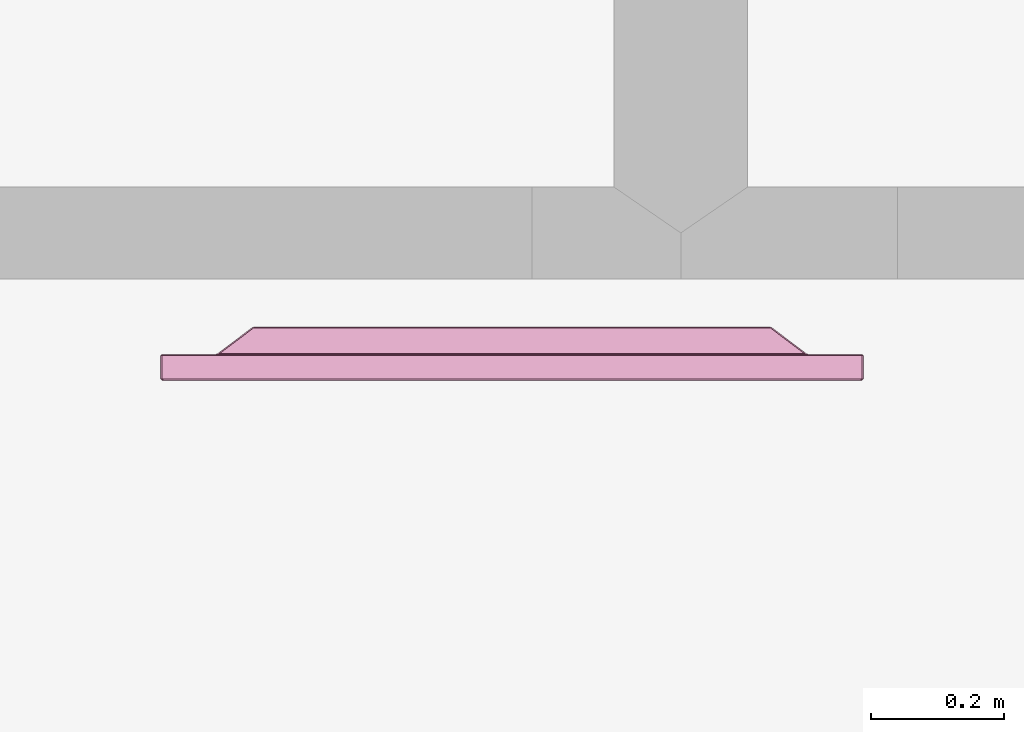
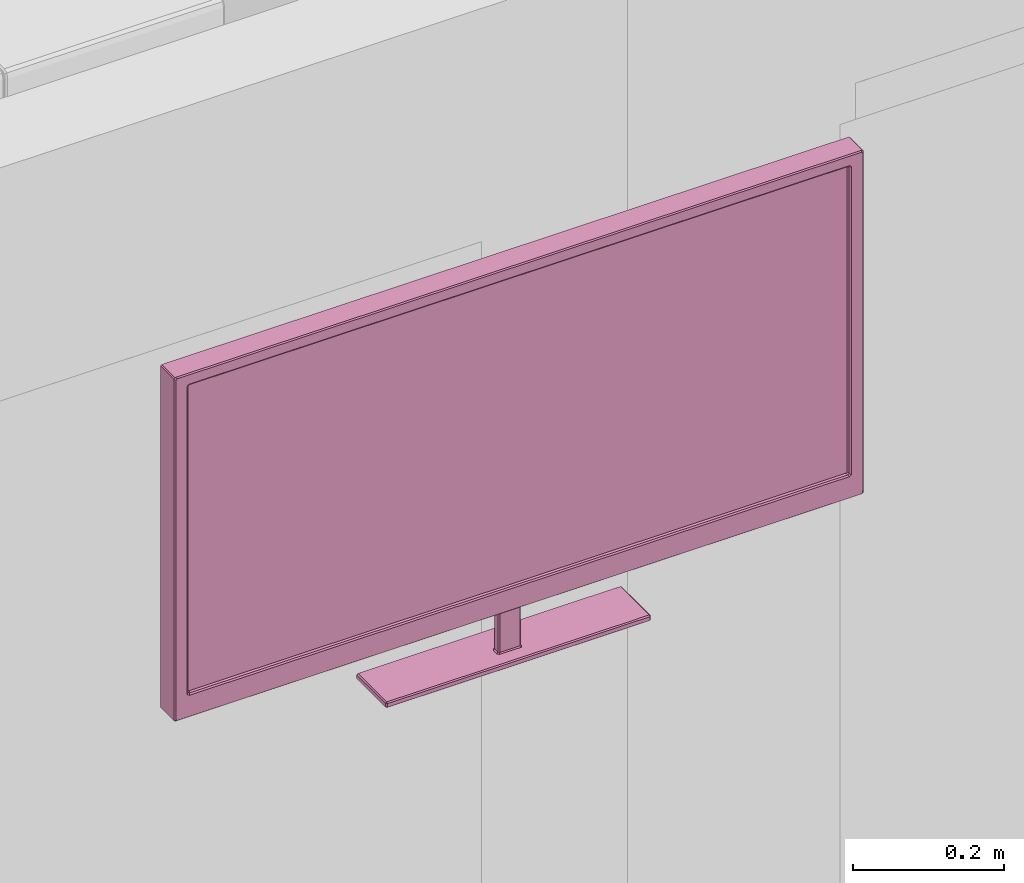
# One storey, part 5 of 9: 1 furnishing.
"""IFC2X3 building model written with IfcOpenShell, lengths in metres."""

from ifc_helpers import new_model, si_unit, frame, origin_with_axes, place, context, project, spatial, faceted_brep, type_object, element, save


model = new_model("IFC2X3")

# Units and contexts
model_context = context("Model", 3, precision=1e-05, world=origin_with_axes())
ifc_project = project(units=[si_unit("AREAUNIT", "SQUARE_METRE"), si_unit("LENGTHUNIT", "METRE")], contexts=[model_context])

# Site, building, storey, space
site_placement = place(None, origin_with_axes())
site = spatial("IfcSite", under=ifc_project, at=site_placement, Name="Site", CompositionType="ELEMENT")
building_placement = place(site_placement, origin_with_axes())
building = spatial("IfcBuilding", under=site, at=building_placement, Name="Building", CompositionType="ELEMENT")
storey_placement = place(building_placement, frame((0.0, 0.0, 0.0500004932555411), z_axis=(0.0, 0.0, 1.0), x_axis=(1.0, 0.0, 0.0)))
storey = spatial("IfcBuildingStorey", under=building, at=storey_placement, Name="Story 0", CompositionType="ELEMENT", Elevation=0.0499999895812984)
space_placement = place(storey_placement, frame((-2.12390536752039, -1.01893616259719, 0.0), z_axis=(0.0, 0.0, 1.0), x_axis=(1.0, 0.0, 0.0)))
space = spatial("IfcSpace", under=storey, at=space_placement, Name="005", CompositionType="ELEMENT", InteriorOrExteriorSpace="INTERNAL")

# Furnishing
furniture_type = type_object("IfcFurnitureType", Name="140231a4-7678-4132-90de-44a7f504c409")
furnishing_placement = place(space_placement, frame((-1.55999784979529, -0.110918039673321, 1.75392168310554), z_axis=(0.0, 0.0, 0.999999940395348), x_axis=(0.0, -0.999999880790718, 0.0)))
element("IfcFurnishingElement", 1, at=furnishing_placement, inside=space, type_object=furniture_type, Name="Television", ObjectType="Television", context=model_context, shape_type="Brep", body=[
    faceted_brep([(0.0288, -0.4993, -0.191), (0.0288, 0.4993, -0.191), (0.0288, -0.5014, -0.1892), (0.0288, -0.5014, 0.2994), (0.0288, -0.5014, -0.1892), (0.0288, -0.4993, 0.3012), (0.0288, 0.4993, 0.3012), (0.0288, -0.4993, 0.3012), (0.0288, 0.5014, 0.2994), (0.0288, -0.4993, 0.3012), (0.0288, -0.5014, -0.1892), (0.0288, 0.5014, 0.2994), (0.0288, -0.5014, -0.1892), (0.0288, 0.4993, -0.191), (0.0288, 0.5014, 0.2994), (0.0288, 0.4993, -0.191), (0.0288, 0.5014, -0.1892), (0.0288, 0.5014, 0.2994), (0.003, -0.5266, 0.3213), (0.003, -0.5266, -0.2303), (0.038, -0.5266, 0.3213), (0.038, -0.5266, -0.2303), (0.038, -0.5266, 0.3213), (0.003, -0.5266, -0.2303), (0.003, 0.5266, -0.2303), (0.003, 0.5266, 0.3213), (0.038, 0.5266, -0.2303), (0.038, 0.5266, 0.3213), (0.038, 0.5266, -0.2303), (0.003, 0.5266, 0.3213), (0.003, 0.5247, 0.323), (0.003, -0.5247, 0.323), (0.038, 0.5247, 0.323), (0.038, -0.5247, 0.323), (0.038, 0.5247, 0.323), (0.003, -0.5247, 0.323), (0.0143, -0.0181, -0.2121), (0.0062, -0.0181, -0.2121), (0.0143, -0.0181, -0.312), (0.0062, -0.0181, -0.312), (0.0143, -0.0181, -0.312), (0.0062, -0.0181, -0.2121), (0.0162, 0.0144, -0.2121), (0.0162, -0.0162, -0.2121), (0.0162, 0.0144, -0.312), (0.0162, -0.0162, -0.312), (0.0162, 0.0144, -0.312), (0.0162, -0.0162, -0.2121), (0.0062, 0.0164, -0.2121), (0.0143, 0.0164, -0.2121), (0.0062, 0.0164, -0.312), (0.0143, 0.0164, -0.312), (0.0062, 0.0164, -0.312), (0.0143, 0.0164, -0.2121), (-0.04, 0.386, -0.13), (-0.04, -0.386, -0.13), (-0.04, 0.386, 0.221), (-0.04, -0.386, 0.221), (-0.04, 0.386, 0.221), (-0.04, -0.386, -0.13), (0.0043, 0.0144, -0.312), (0.0043, -0.0162, -0.312), (0.0043, 0.0144, -0.2121), (0.0043, -0.0162, -0.2121), (0.0043, 0.0144, -0.2121), (0.0043, -0.0162, -0.312), (0.038, -0.5247, -0.232), (0.003, -0.5247, -0.232), (0.038, 0.5247, -0.232), (0.003, 0.5247, -0.232), (0.038, 0.5247, -0.232), (0.003, -0.5247, -0.232), (-0.0379, -0.2014, -0.323), (-0.0379, 0.1996, -0.323), (0.0382, -0.2014, -0.323), (0.0382, 0.1996, -0.323), (0.0382, -0.2014, -0.323), (-0.0379, 0.1996, -0.323), (0.0399, -0.5041, -0.1961), (0.0399, -0.5235, -0.2303), (0.0399, 0.5041, -0.1961), (0.0399, 0.5235, -0.2303), (0.0399, 0.5041, -0.1961), (0.0399, -0.5235, -0.2303), (0.0399, -0.5072, 0.3039), (0.0399, -0.5247, 0.3189), (0.0399, -0.5072, -0.194), (0.0399, -0.5247, -0.2247), (0.0399, -0.5072, -0.194), (0.0399, -0.5247, 0.3189), (0.0399, 0.5045, 0.3063), (0.0399, 0.5219, 0.3213), (0.0399, -0.5045, 0.3063), (0.0399, -0.5219, 0.3213), (0.0399, -0.5045, 0.3063), (0.0399, 0.5219, 0.3213), (0.0399, 0.5247, -0.2247), (0.0399, 0.5247, 0.3189), (0.0399, 0.5072, -0.194), (0.0399, 0.5072, 0.3039), (0.0399, 0.5072, -0.194), (0.0399, 0.5247, 0.3189), (0.0288, -0.4993, -0.191), (0.0381, -0.5026, -0.1938), (0.0288, 0.4993, -0.191), (0.0381, 0.5026, -0.1938), (0.0288, 0.4993, -0.191), (0.0381, -0.5026, -0.1938), (0.0288, -0.5014, 0.2994), (0.0381, -0.5047, 0.3023), (0.0288, -0.5014, -0.1892), (0.0381, -0.5047, -0.1921), (0.0288, -0.5014, -0.1892), (0.0381, -0.5047, 0.3023), (0.0288, 0.4993, 0.3012), (0.0381, 0.5026, 0.304), (0.0288, -0.4993, 0.3012), (0.0381, -0.5026, 0.304), (0.0288, -0.4993, 0.3012), (0.0381, 0.5026, 0.304), (0.0288, 0.5014, -0.1892), (0.0381, 0.5047, -0.1921), (0.0288, 0.5014, 0.2994), (0.0381, 0.5047, 0.3023), (0.0288, 0.5014, 0.2994), (0.0381, 0.5047, -0.1921), (0.0011, -0.4445, -0.1627), (0.0011, -0.5247, -0.2281), (0.0011, -0.4445, 0.2536), (0.0011, -0.5247, 0.3191), (0.0011, -0.4445, 0.2536), (0.0011, -0.5247, -0.2281), (0.0011, 0.4418, -0.1651), (0.0011, 0.5217, -0.2303), (0.0011, -0.4418, -0.1651), (0.0011, -0.5217, -0.2303), (0.0011, -0.4418, -0.1651), (0.0011, 0.5217, -0.2303), (0.0011, 0.4445, 0.2536), (0.0011, 0.5247, 0.3191), (0.0011, 0.4445, -0.1627), (0.0011, 0.5247, -0.2281), (0.0011, 0.4445, -0.1627), (0.0011, 0.5247, 0.3191), (0.0011, -0.4418, 0.2561), (0.0011, -0.5217, 0.3213), (0.0011, 0.4418, 0.2561), (0.0011, 0.5217, 0.3213), (0.0011, 0.4418, 0.2561), (0.0011, -0.5217, 0.3213), (-0.0389, -0.3895, 0.2217), (-0.0389, -0.3895, -0.1307), (0.0, -0.4411, 0.2516), (0.0, -0.4411, -0.1606), (0.0, -0.4411, 0.2516), (-0.0389, -0.3895, -0.1307), (-0.0386, -0.3871, -0.1328), (-0.0386, 0.3871, -0.1328), (-0.0003, -0.438, -0.1623), (-0.0003, 0.438, -0.1623), (-0.0003, -0.438, -0.1623), (-0.0386, 0.3871, -0.1328), (-0.0389, 0.3895, -0.1307), (-0.0389, 0.3895, 0.2217), (0.0, 0.4411, -0.1606), (0.0, 0.4411, 0.2516), (0.0, 0.4411, -0.1606), (-0.0389, 0.3895, 0.2217), (-0.0386, 0.3871, 0.2238), (-0.0386, -0.3871, 0.2238), (-0.0003, 0.438, 0.2533), (-0.0003, -0.438, 0.2533), (-0.0003, 0.438, 0.2533), (-0.0386, -0.3871, 0.2238), (0.04, 0.1996, -0.3213), (0.04, 0.1996, -0.3154), (0.04, -0.2014, -0.3213), (0.04, -0.2014, -0.3154), (0.04, -0.2014, -0.3213), (0.04, 0.1996, -0.3154), (-0.0379, 0.2016, -0.3213), (-0.0379, 0.2016, -0.3154), (0.0382, 0.2016, -0.3213), (0.0382, 0.2016, -0.3154), (0.0382, 0.2016, -0.3213), (-0.0379, 0.2016, -0.3154), (-0.0397, -0.2014, -0.3213), (-0.0397, -0.2014, -0.3154), (-0.0397, 0.1996, -0.3213), (-0.0397, 0.1996, -0.3154), (-0.0397, 0.1996, -0.3213), (-0.0397, -0.2014, -0.3154), (0.0382, -0.2034, -0.3213), (0.0382, -0.2034, -0.3154), (-0.0379, -0.2034, -0.3213), (-0.0379, -0.2034, -0.3154), (-0.0379, -0.2034, -0.3213), (0.0382, -0.2034, -0.3154), (-0.0374, -0.2014, -0.3137), (0.0379, -0.2014, -0.3137), (0.0058, -0.0201, -0.3137), (0.0146, -0.0201, -0.3137), (0.0058, -0.0201, -0.3137), (0.0379, -0.2014, -0.3137), (0.0025, 0.0161, -0.3137), (-0.0379, 0.1858, -0.3137), (0.0025, -0.0179, -0.3137), (-0.0379, -0.1876, -0.3137), (0.0025, -0.0179, -0.3137), (-0.0379, 0.1858, -0.3137), (0.0146, 0.0183, -0.3137), (0.0379, 0.1996, -0.3137), (0.0058, 0.0183, -0.3137), (-0.0374, 0.1996, -0.3137), (0.0058, 0.0183, -0.3137), (0.0379, 0.1996, -0.3137), (0.018, -0.018, -0.3137), (0.0382, -0.1746, -0.3137), (0.018, 0.0162, -0.3137), (0.0382, 0.1728, -0.3137), (0.018, 0.0162, -0.3137), (0.0382, -0.1746, -0.3137), (0.0346, -0.5151, -0.2007), (0.0346, 0.5151, -0.2007), (0.0346, -0.5151, 0.3109), (0.0346, 0.5151, 0.3109), (0.0346, -0.5151, 0.3109), (0.0346, 0.5151, -0.2007), (0.0399, -0.5219, 0.3213), (0.038, -0.5247, 0.323), (0.0399, -0.5247, 0.3189), (0.038, -0.5266, 0.3213), (0.0399, -0.5247, 0.3189), (0.038, -0.5247, 0.323), (0.0011, 0.5217, 0.3213), (0.003, 0.5247, 0.323), (0.0011, 0.5247, 0.3191), (0.003, 0.5266, 0.3213), (0.0011, 0.5247, 0.3191), (0.003, 0.5247, 0.323), (0.0399, 0.5247, 0.3189), (0.038, 0.5266, 0.3213), (0.0399, 0.5219, 0.3213), (0.038, 0.5247, 0.323), (0.0399, 0.5219, 0.3213), (0.038, 0.5266, 0.3213), (0.0058, -0.0201, -0.3137), (0.0062, -0.0181, -0.312), (0.0025, -0.0179, -0.3137), (0.0043, -0.0162, -0.312), (0.0025, -0.0179, -0.3137), (0.0062, -0.0181, -0.312), (0.0146, -0.0201, -0.3137), (0.018, -0.018, -0.3137), (0.0143, -0.0181, -0.312), (0.0162, -0.0162, -0.312), (0.0143, -0.0181, -0.312), (0.018, -0.018, -0.3137), (0.0146, 0.0183, -0.3137), (0.0143, 0.0164, -0.312), (0.018, 0.0162, -0.3137), (0.0162, 0.0144, -0.312), (0.018, 0.0162, -0.3137), (0.0143, 0.0164, -0.312), (-0.0386, -0.3871, 0.2238), (-0.04, -0.386, 0.221), (-0.0389, -0.3895, 0.2217), (0.0058, 0.0183, -0.3137), (0.0025, 0.0161, -0.3137), (0.0062, 0.0164, -0.312), (0.0043, 0.0144, -0.312), (0.0062, 0.0164, -0.312), (0.0025, 0.0161, -0.3137), (0.0011, -0.5217, -0.2303), (0.003, -0.5247, -0.232), (0.0011, -0.5247, -0.2281), (0.003, -0.5266, -0.2303), (0.0011, -0.5247, -0.2281), (0.003, -0.5247, -0.232), (0.0399, -0.5247, -0.2247), (0.038, -0.5266, -0.2303), (0.0399, -0.5235, -0.2303), (0.038, -0.5247, -0.232), (0.0399, -0.5235, -0.2303), (0.038, -0.5266, -0.2303), (0.0382, -0.2034, -0.3213), (0.0382, -0.2014, -0.323), (0.04, -0.2014, -0.3213), (0.0399, 0.5247, -0.2247), (0.0399, 0.5235, -0.2303), (0.038, 0.5266, -0.2303), (0.038, 0.5247, -0.232), (0.038, 0.5266, -0.2303), (0.0399, 0.5235, -0.2303), (0.0381, -0.5047, -0.1921), (0.0399, -0.5072, -0.194), (0.0381, -0.5026, -0.1938), (0.0399, -0.5041, -0.1961), (0.0381, -0.5026, -0.1938), (0.0399, -0.5072, -0.194), (0.0381, -0.5026, 0.304), (0.0399, -0.5045, 0.3063), (0.0381, -0.5047, 0.3023), (0.0399, -0.5072, 0.3039), (0.0381, -0.5047, 0.3023), (0.0399, -0.5045, 0.3063), (0.0381, 0.5047, 0.3023), (0.0399, 0.5072, 0.3039), (0.0381, 0.5026, 0.304), (0.0399, 0.5045, 0.3063), (0.0381, 0.5026, 0.304), (0.0399, 0.5072, 0.3039), (0.0381, 0.5047, -0.1921), (0.0381, 0.5026, -0.1938), (0.0399, 0.5072, -0.194), (0.0399, 0.5041, -0.1961), (0.0399, 0.5072, -0.194), (0.0381, 0.5026, -0.1938), (0.0011, -0.5217, 0.3213), (0.0011, -0.5247, 0.3191), (0.003, -0.5247, 0.323), (0.003, -0.5266, 0.3213), (0.003, -0.5247, 0.323), (0.0011, -0.5247, 0.3191), (-0.0003, -0.438, 0.2533), (0.0, -0.4411, 0.2516), (0.0011, -0.4418, 0.2561), (0.0011, -0.4445, 0.2536), (0.0011, -0.4418, 0.2561), (0.0, -0.4411, 0.2516), (-0.0003, -0.438, -0.1623), (0.0011, -0.4418, -0.1651), (0.0, -0.4411, -0.1606), (0.0011, -0.4445, -0.1627), (0.0, -0.4411, -0.1606), (0.0011, -0.4418, -0.1651), (0.0011, 0.5217, -0.2303), (0.0011, 0.5247, -0.2281), (0.003, 0.5247, -0.232), (0.003, 0.5266, -0.2303), (0.003, 0.5247, -0.232), (0.0011, 0.5247, -0.2281), (-0.0003, 0.438, -0.1623), (0.0, 0.4411, -0.1606), (0.0011, 0.4418, -0.1651), (0.0011, 0.4445, -0.1627), (0.0011, 0.4418, -0.1651), (0.0, 0.4411, -0.1606), (-0.0003, 0.438, 0.2533), (0.0011, 0.4418, 0.2561), (0.0, 0.4411, 0.2516), (0.0011, 0.4445, 0.2536), (0.0, 0.4411, 0.2516), (0.0011, 0.4418, 0.2561), (-0.0386, -0.3871, -0.1328), (-0.0389, -0.3895, -0.1307), (-0.04, -0.386, -0.13), (-0.0389, 0.3895, -0.1307), (-0.0386, 0.3871, -0.1328), (-0.04, 0.386, -0.13), (-0.0386, 0.3871, 0.2238), (-0.0389, 0.3895, 0.2217), (-0.04, 0.386, 0.221), (0.0382, 0.2016, -0.3213), (0.04, 0.1996, -0.3213), (0.0382, 0.1996, -0.323), (-0.0397, 0.1996, -0.3213), (-0.0379, 0.2016, -0.3213), (-0.0379, 0.1996, -0.323), (-0.0379, -0.2034, -0.3213), (-0.0397, -0.2014, -0.3213), (-0.0379, -0.2014, -0.323), (-0.0379, -0.1876, -0.3137), (-0.0397, -0.2014, -0.3154), (-0.0374, -0.2014, -0.3137), (-0.0379, -0.2034, -0.3154), (-0.0374, -0.2014, -0.3137), (-0.0397, -0.2014, -0.3154), (0.0382, -0.1746, -0.3137), (0.0379, -0.2014, -0.3137), (0.04, -0.2014, -0.3154), (0.0382, -0.2034, -0.3154), (0.04, -0.2014, -0.3154), (0.0379, -0.2014, -0.3137), (-0.0379, 0.1858, -0.3137), (-0.0374, 0.1996, -0.3137), (-0.0397, 0.1996, -0.3154), (-0.0379, 0.2016, -0.3154), (-0.0397, 0.1996, -0.3154), (-0.0374, 0.1996, -0.3137), (0.0382, 0.2016, -0.3154), (0.0379, 0.1996, -0.3137), (0.04, 0.1996, -0.3154), (0.0382, 0.1728, -0.3137), (0.04, 0.1996, -0.3154), (0.0379, 0.1996, -0.3137), (0.038, -0.5266, -0.2303), (0.003, -0.5266, -0.2303), (0.038, -0.5247, -0.232), (0.003, -0.5247, -0.232), (0.038, -0.5247, -0.232), (0.003, -0.5266, -0.2303), (0.003, -0.5266, 0.3213), (0.038, -0.5266, 0.3213), (0.003, -0.5247, 0.323), (0.038, -0.5247, 0.323), (0.003, -0.5247, 0.323), (0.038, -0.5266, 0.3213), (0.038, 0.5266, 0.3213), (0.003, 0.5266, 0.3213), (0.038, 0.5247, 0.323), (0.003, 0.5247, 0.323), (0.038, 0.5247, 0.323), (0.003, 0.5266, 0.3213), (0.003, 0.5266, -0.2303), (0.038, 0.5266, -0.2303), (0.003, 0.5247, -0.232), (0.038, 0.5247, -0.232), (0.003, 0.5247, -0.232), (0.038, 0.5266, -0.2303), (0.0062, -0.0181, -0.312), (0.0062, -0.0181, -0.2121), (0.0043, -0.0162, -0.312), (0.0043, -0.0162, -0.2121), (0.0043, -0.0162, -0.312), (0.0062, -0.0181, -0.2121), (0.0143, -0.0181, -0.2121), (0.0143, -0.0181, -0.312), (0.0162, -0.0162, -0.2121), (0.0162, -0.0162, -0.312), (0.0162, -0.0162, -0.2121), (0.0143, -0.0181, -0.312), (0.0162, 0.0144, -0.2121), (0.0162, 0.0144, -0.312), (0.0143, 0.0164, -0.2121), (0.0143, 0.0164, -0.312), (0.0143, 0.0164, -0.2121), (0.0162, 0.0144, -0.312), (0.0062, 0.0164, -0.2121), (0.0062, 0.0164, -0.312), (0.0043, 0.0144, -0.2121), (0.0043, 0.0144, -0.312), (0.0043, 0.0144, -0.2121), (0.0062, 0.0164, -0.312), (-0.04, -0.386, 0.221), (-0.04, -0.386, -0.13), (-0.0389, -0.3895, 0.2217), (-0.0389, -0.3895, -0.1307), (-0.0389, -0.3895, 0.2217), (-0.04, -0.386, -0.13), (-0.04, -0.386, -0.13), (-0.04, 0.386, -0.13), (-0.0386, -0.3871, -0.1328), (-0.0386, 0.3871, -0.1328), (-0.0386, -0.3871, -0.1328), (-0.04, 0.386, -0.13), (-0.04, 0.386, -0.13), (-0.04, 0.386, 0.221), (-0.0389, 0.3895, -0.1307), (-0.0389, 0.3895, 0.2217), (-0.0389, 0.3895, -0.1307), (-0.04, 0.386, 0.221), (-0.04, 0.386, 0.221), (-0.04, -0.386, 0.221), (-0.0386, 0.3871, 0.2238), (-0.0386, -0.3871, 0.2238), (-0.0386, 0.3871, 0.2238), (-0.04, -0.386, 0.221), (0.0382, 0.1996, -0.323), (-0.0379, 0.1996, -0.323), (0.0382, 0.2016, -0.3213), (-0.0379, 0.2016, -0.3213), (0.0382, 0.2016, -0.3213), (-0.0379, 0.1996, -0.323), (-0.0379, 0.1996, -0.323), (-0.0379, -0.2014, -0.323), (-0.0397, 0.1996, -0.3213), (-0.0397, -0.2014, -0.3213), (-0.0397, 0.1996, -0.3213), (-0.0379, -0.2014, -0.323), (-0.0379, -0.2014, -0.323), (0.0382, -0.2014, -0.323), (-0.0379, -0.2034, -0.3213), (0.0382, -0.2034, -0.3213), (-0.0379, -0.2034, -0.3213), (0.0382, -0.2014, -0.323), (0.0382, -0.2014, -0.323), (0.0382, 0.1996, -0.323), (0.04, -0.2014, -0.3213), (0.04, 0.1996, -0.3213), (0.04, -0.2014, -0.3213), (0.0382, 0.1996, -0.323), (0.0399, 0.5235, -0.2303), (0.0399, -0.5235, -0.2303), (0.038, 0.5247, -0.232), (0.038, -0.5247, -0.232), (0.038, 0.5247, -0.232), (0.0399, -0.5235, -0.2303), (0.0399, -0.5235, -0.2303), (0.0399, -0.5041, -0.1961), (0.0399, -0.5247, -0.2247), (0.0399, -0.5072, -0.194), (0.0399, -0.5247, -0.2247), (0.0399, -0.5041, -0.1961), (0.0399, -0.5247, -0.2247), (0.0399, -0.5247, 0.3189), (0.038, -0.5266, -0.2303), (0.038, -0.5266, 0.3213), (0.038, -0.5266, -0.2303), (0.0399, -0.5247, 0.3189), (0.0399, -0.5247, 0.3189), (0.0399, -0.5072, 0.3039), (0.0399, -0.5219, 0.3213), (0.0399, -0.5045, 0.3063), (0.0399, -0.5219, 0.3213), (0.0399, -0.5072, 0.3039), (0.0399, -0.5219, 0.3213), (0.0399, 0.5219, 0.3213), (0.038, -0.5247, 0.323), (0.038, 0.5247, 0.323), (0.038, -0.5247, 0.323), (0.0399, 0.5219, 0.3213), (0.0399, 0.5219, 0.3213), (0.0399, 0.5045, 0.3063), (0.0399, 0.5247, 0.3189), (0.0399, 0.5072, 0.3039), (0.0399, 0.5247, 0.3189), (0.0399, 0.5045, 0.3063), (0.0399, 0.5247, 0.3189), (0.0399, 0.5247, -0.2247), (0.038, 0.5266, 0.3213), (0.038, 0.5266, -0.2303), (0.038, 0.5266, 0.3213), (0.0399, 0.5247, -0.2247), (0.0399, 0.5247, -0.2247), (0.0399, 0.5072, -0.194), (0.0399, 0.5235, -0.2303), (0.0399, 0.5041, -0.1961), (0.0399, 0.5235, -0.2303), (0.0399, 0.5072, -0.194), (0.0381, 0.5026, -0.1938), (0.0381, -0.5026, -0.1938), (0.0399, 0.5041, -0.1961), (0.0399, -0.5041, -0.1961), (0.0399, 0.5041, -0.1961), (0.0381, -0.5026, -0.1938), (0.0381, -0.5026, -0.1938), (0.0288, -0.4993, -0.191), (0.0381, -0.5047, -0.1921), (0.0288, -0.5014, -0.1892), (0.0381, -0.5047, -0.1921), (0.0288, -0.4993, -0.191), (0.0381, -0.5047, -0.1921), (0.0381, -0.5047, 0.3023), (0.0399, -0.5072, -0.194), (0.0399, -0.5072, 0.3039), (0.0399, -0.5072, -0.194), (0.0381, -0.5047, 0.3023), (0.0381, -0.5047, 0.3023), (0.0288, -0.5014, 0.2994), (0.0381, -0.5026, 0.304), (0.0288, -0.4993, 0.3012), (0.0381, -0.5026, 0.304), (0.0288, -0.5014, 0.2994), (0.0381, -0.5026, 0.304), (0.0381, 0.5026, 0.304), (0.0399, -0.5045, 0.3063), (0.0399, 0.5045, 0.3063), (0.0399, -0.5045, 0.3063), (0.0381, 0.5026, 0.304), (0.0381, 0.5026, 0.304), (0.0288, 0.4993, 0.3012), (0.0381, 0.5047, 0.3023), (0.0288, 0.5014, 0.2994), (0.0381, 0.5047, 0.3023), (0.0288, 0.4993, 0.3012), (0.0381, 0.5047, 0.3023), (0.0381, 0.5047, -0.1921), (0.0399, 0.5072, 0.3039), (0.0399, 0.5072, -0.194), (0.0399, 0.5072, 0.3039), (0.0381, 0.5047, -0.1921), (0.0381, 0.5047, -0.1921), (0.0288, 0.5014, -0.1892), (0.0381, 0.5026, -0.1938), (0.0288, 0.4993, -0.191), (0.0381, 0.5026, -0.1938), (0.0288, 0.5014, -0.1892), (0.0011, -0.5247, 0.3191), (0.0011, -0.5247, -0.2281), (0.003, -0.5266, 0.3213), (0.003, -0.5266, -0.2303), (0.003, -0.5266, 0.3213), (0.0011, -0.5247, -0.2281), (0.0011, -0.5247, -0.2281), (0.0011, -0.4445, -0.1627), (0.0011, -0.5217, -0.2303), (0.0011, -0.4418, -0.1651), (0.0011, -0.5217, -0.2303), (0.0011, -0.4445, -0.1627), (0.0011, -0.4445, -0.1627), (0.0011, -0.4445, 0.2536), (0.0, -0.4411, -0.1606), (0.0, -0.4411, 0.2516), (0.0, -0.4411, -0.1606), (0.0011, -0.4445, 0.2536), (0.0011, -0.5217, -0.2303), (0.0011, 0.5217, -0.2303), (0.003, -0.5247, -0.232), (0.003, 0.5247, -0.232), (0.003, -0.5247, -0.232), (0.0011, 0.5217, -0.2303), (0.0011, 0.5217, -0.2303), (0.0011, 0.4418, -0.1651), (0.0011, 0.5247, -0.2281), (0.0011, 0.4445, -0.1627), (0.0011, 0.5247, -0.2281), (0.0011, 0.4418, -0.1651), (0.0011, 0.4418, -0.1651), (0.0011, -0.4418, -0.1651), (-0.0003, 0.438, -0.1623), (-0.0003, -0.438, -0.1623), (-0.0003, 0.438, -0.1623), (0.0011, -0.4418, -0.1651), (0.0011, 0.5247, -0.2281), (0.0011, 0.5247, 0.3191), (0.003, 0.5266, -0.2303), (0.003, 0.5266, 0.3213), (0.003, 0.5266, -0.2303), (0.0011, 0.5247, 0.3191), (0.0011, 0.5247, 0.3191), (0.0011, 0.4445, 0.2536), (0.0011, 0.5217, 0.3213), (0.0011, 0.4418, 0.2561), (0.0011, 0.5217, 0.3213), (0.0011, 0.4445, 0.2536), (0.0011, 0.4445, 0.2536), (0.0011, 0.4445, -0.1627), (0.0, 0.4411, 0.2516), (0.0, 0.4411, -0.1606), (0.0, 0.4411, 0.2516), (0.0011, 0.4445, -0.1627), (0.0011, 0.5217, 0.3213), (0.0011, -0.5217, 0.3213), (0.003, 0.5247, 0.323), (0.003, -0.5247, 0.323), (0.003, 0.5247, 0.323), (0.0011, -0.5217, 0.3213), (0.0011, -0.5217, 0.3213), (0.0011, -0.4418, 0.2561), (0.0011, -0.5247, 0.3191), (0.0011, -0.4445, 0.2536), (0.0011, -0.5247, 0.3191), (0.0011, -0.4418, 0.2561), (0.0011, -0.4418, 0.2561), (0.0011, 0.4418, 0.2561), (-0.0003, -0.438, 0.2533), (-0.0003, 0.438, 0.2533), (-0.0003, -0.438, 0.2533), (0.0011, 0.4418, 0.2561), (0.0, -0.4411, -0.1606), (-0.0389, -0.3895, -0.1307), (-0.0003, -0.438, -0.1623), (-0.0386, -0.3871, -0.1328), (-0.0003, -0.438, -0.1623), (-0.0389, -0.3895, -0.1307), (-0.0003, 0.438, -0.1623), (-0.0386, 0.3871, -0.1328), (0.0, 0.4411, -0.1606), (-0.0389, 0.3895, -0.1307), (0.0, 0.4411, -0.1606), (-0.0386, 0.3871, -0.1328), (0.0, 0.4411, 0.2516), (-0.0389, 0.3895, 0.2217), (-0.0003, 0.438, 0.2533), (-0.0386, 0.3871, 0.2238), (-0.0003, 0.438, 0.2533), (-0.0389, 0.3895, 0.2217), (-0.0003, -0.438, 0.2533), (-0.0386, -0.3871, 0.2238), (0.0, -0.4411, 0.2516), (-0.0389, -0.3895, 0.2217), (0.0, -0.4411, 0.2516), (-0.0386, -0.3871, 0.2238), (0.04, 0.1996, -0.3154), (0.04, 0.1996, -0.3213), (0.0382, 0.2016, -0.3154), (0.0382, 0.2016, -0.3213), (0.0382, 0.2016, -0.3154), (0.04, 0.1996, -0.3213), (-0.0379, 0.2016, -0.3154), (-0.0379, 0.2016, -0.3213), (-0.0397, 0.1996, -0.3154), (-0.0397, 0.1996, -0.3213), (-0.0397, 0.1996, -0.3154), (-0.0379, 0.2016, -0.3213), (-0.0397, -0.2014, -0.3154), (-0.0397, -0.2014, -0.3213), (-0.0379, -0.2034, -0.3154), (-0.0379, -0.2034, -0.3213), (-0.0379, -0.2034, -0.3154), (-0.0397, -0.2014, -0.3213), (0.0382, -0.2034, -0.3154), (0.0382, -0.2034, -0.3213), (0.04, -0.2014, -0.3154), (0.04, -0.2014, -0.3213), (0.04, -0.2014, -0.3154), (0.0382, -0.2034, -0.3213), (0.0379, -0.2014, -0.3137), (-0.0374, -0.2014, -0.3137), (0.0382, -0.2034, -0.3154), (-0.0379, -0.2034, -0.3154), (0.0382, -0.2034, -0.3154), (-0.0374, -0.2014, -0.3137), (-0.0374, -0.2014, -0.3137), (0.0058, -0.0201, -0.3137), (-0.0379, -0.1876, -0.3137), (0.0025, -0.0179, -0.3137), (-0.0379, -0.1876, -0.3137), (0.0058, -0.0201, -0.3137), (0.0058, -0.0201, -0.3137), (0.0146, -0.0201, -0.3137), (0.0062, -0.0181, -0.312), (0.0143, -0.0181, -0.312), (0.0062, -0.0181, -0.312), (0.0146, -0.0201, -0.3137), (-0.0379, -0.1876, -0.3137), (-0.0379, 0.1858, -0.3137), (-0.0397, -0.2014, -0.3154), (-0.0397, 0.1996, -0.3154), (-0.0397, -0.2014, -0.3154), (-0.0379, 0.1858, -0.3137), (-0.0379, 0.1858, -0.3137), (0.0025, 0.0161, -0.3137), (-0.0374, 0.1996, -0.3137), (0.0058, 0.0183, -0.3137), (-0.0374, 0.1996, -0.3137), (0.0025, 0.0161, -0.3137), (0.0025, 0.0161, -0.3137), (0.0025, -0.0179, -0.3137), (0.0043, 0.0144, -0.312), (0.0043, -0.0162, -0.312), (0.0043, 0.0144, -0.312), (0.0025, -0.0179, -0.3137), (-0.0374, 0.1996, -0.3137), (0.0379, 0.1996, -0.3137), (-0.0379, 0.2016, -0.3154), (0.0382, 0.2016, -0.3154), (-0.0379, 0.2016, -0.3154), (0.0379, 0.1996, -0.3137), (0.0379, 0.1996, -0.3137), (0.0146, 0.0183, -0.3137), (0.0382, 0.1728, -0.3137), (0.018, 0.0162, -0.3137), (0.0382, 0.1728, -0.3137), (0.0146, 0.0183, -0.3137), (0.0146, 0.0183, -0.3137), (0.0058, 0.0183, -0.3137), (0.0143, 0.0164, -0.312), (0.0062, 0.0164, -0.312), (0.0143, 0.0164, -0.312), (0.0058, 0.0183, -0.3137), (0.0382, 0.1728, -0.3137), (0.0382, -0.1746, -0.3137), (0.04, 0.1996, -0.3154), (0.04, -0.2014, -0.3154), (0.04, 0.1996, -0.3154), (0.0382, -0.1746, -0.3137), (0.0382, -0.1746, -0.3137), (0.018, -0.018, -0.3137), (0.0379, -0.2014, -0.3137), (0.0146, -0.0201, -0.3137), (0.0379, -0.2014, -0.3137), (0.018, -0.018, -0.3137), (0.018, -0.018, -0.3137), (0.018, 0.0162, -0.3137), (0.0162, -0.0162, -0.312), (0.0162, 0.0144, -0.312), (0.0162, -0.0162, -0.312), (0.018, 0.0162, -0.3137)], [[[0, 1, 2]], [[3, 4, 5]], [[6, 7, 8]], [[9, 10, 11]], [[12, 13, 14]], [[15, 16, 17]], [[18, 19, 20]], [[21, 22, 23]], [[24, 25, 26]], [[27, 28, 29]], [[30, 31, 32]], [[33, 34, 35]], [[36, 37, 38]], [[39, 40, 41]], [[42, 43, 44]], [[45, 46, 47]], [[48, 49, 50]], [[51, 52, 53]], [[54, 55, 56]], [[57, 58, 59]], [[60, 61, 62]], [[63, 64, 65]], [[66, 67, 68]], [[69, 70, 71]], [[72, 73, 74]], [[75, 76, 77]], [[78, 79, 80]], [[81, 82, 83]], [[84, 85, 86]], [[87, 88, 89]], [[90, 91, 92]], [[93, 94, 95]], [[96, 97, 98]], [[99, 100, 101]], [[102, 103, 104]], [[105, 106, 107]], [[108, 109, 110]], [[111, 112, 113]], [[114, 115, 116]], [[117, 118, 119]], [[120, 121, 122]], [[123, 124, 125]], [[126, 127, 128]], [[129, 130, 131]], [[132, 133, 134]], [[135, 136, 137]], [[138, 139, 140]], [[141, 142, 143]], [[144, 145, 146]], [[147, 148, 149]], [[150, 151, 152]], [[153, 154, 155]], [[156, 157, 158]], [[159, 160, 161]], [[162, 163, 164]], [[165, 166, 167]], [[168, 169, 170]], [[171, 172, 173]], [[174, 175, 176]], [[177, 178, 179]], [[180, 181, 182]], [[183, 184, 185]], [[186, 187, 188]], [[189, 190, 191]], [[192, 193, 194]], [[195, 196, 197]], [[198, 199, 200]], [[201, 202, 203]], [[204, 205, 206]], [[207, 208, 209]], [[210, 211, 212]], [[213, 214, 215]], [[216, 217, 218]], [[219, 220, 221]], [[222, 223, 224]], [[225, 226, 227]], [[228, 229, 230]], [[231, 232, 233]], [[234, 235, 236]], [[237, 238, 239]], [[240, 241, 242]], [[243, 244, 245]], [[246, 247, 248]], [[249, 250, 251]], [[252, 253, 254]], [[255, 256, 257]], [[258, 259, 260]], [[261, 262, 263]], [[264, 265, 266]], [[267, 268, 269]], [[270, 271, 272]], [[273, 274, 275]], [[276, 277, 278]], [[279, 280, 281]], [[282, 283, 284]], [[285, 286, 287]], [[288, 289, 290]], [[291, 292, 293]], [[294, 295, 296]], [[297, 298, 299]], [[300, 301, 302]], [[303, 304, 305]], [[306, 307, 308]], [[309, 310, 311]], [[312, 313, 314]], [[315, 316, 317]], [[318, 319, 320]], [[321, 322, 323]], [[324, 325, 326]], [[327, 328, 329]], [[330, 331, 332]], [[333, 334, 335]], [[336, 337, 338]], [[339, 340, 341]], [[342, 343, 344]], [[345, 346, 347]], [[348, 349, 350]], [[351, 352, 353]], [[354, 355, 356]], [[357, 358, 359]], [[360, 361, 362]], [[363, 364, 365]], [[366, 367, 368]], [[369, 370, 371]], [[372, 373, 374]], [[375, 376, 377]], [[378, 379, 380]], [[381, 382, 383]], [[384, 385, 386]], [[387, 388, 389]], [[390, 391, 392]], [[393, 394, 395]], [[396, 397, 398]], [[399, 400, 401]], [[402, 403, 404]], [[405, 406, 407]], [[408, 409, 410]], [[411, 412, 413]], [[414, 415, 416]], [[417, 418, 419]], [[420, 421, 422]], [[423, 424, 425]], [[426, 427, 428]], [[429, 430, 431]], [[432, 433, 434]], [[435, 436, 437]], [[438, 439, 440]], [[441, 442, 443]], [[444, 445, 446]], [[447, 448, 449]], [[450, 451, 452]], [[453, 454, 455]], [[456, 457, 458]], [[459, 460, 461]], [[462, 463, 464]], [[465, 466, 467]], [[468, 469, 470]], [[471, 472, 473]], [[474, 475, 476]], [[477, 478, 479]], [[480, 481, 482]], [[483, 484, 485]], [[486, 487, 488]], [[489, 490, 491]], [[492, 493, 494]], [[495, 496, 497]], [[498, 499, 500]], [[501, 502, 503]], [[504, 505, 506]], [[507, 508, 509]], [[510, 511, 512]], [[513, 514, 515]], [[516, 517, 518]], [[519, 520, 521]], [[522, 523, 524]], [[525, 526, 527]], [[528, 529, 530]], [[531, 532, 533]], [[534, 535, 536]], [[537, 538, 539]], [[540, 541, 542]], [[543, 544, 545]], [[546, 547, 548]], [[549, 550, 551]], [[552, 553, 554]], [[555, 556, 557]], [[558, 559, 560]], [[561, 562, 563]], [[564, 565, 566]], [[567, 568, 569]], [[570, 571, 572]], [[573, 574, 575]], [[576, 577, 578]], [[579, 580, 581]], [[582, 583, 584]], [[585, 586, 587]], [[588, 589, 590]], [[591, 592, 593]], [[594, 595, 596]], [[597, 598, 599]], [[600, 601, 602]], [[603, 604, 605]], [[606, 607, 608]], [[609, 610, 611]], [[612, 613, 614]], [[615, 616, 617]], [[618, 619, 620]], [[621, 622, 623]], [[624, 625, 626]], [[627, 628, 629]], [[630, 631, 632]], [[633, 634, 635]], [[636, 637, 638]], [[639, 640, 641]], [[642, 643, 644]], [[645, 646, 647]], [[648, 649, 650]], [[651, 652, 653]], [[654, 655, 656]], [[657, 658, 659]], [[660, 661, 662]], [[663, 664, 665]], [[666, 667, 668]], [[669, 670, 671]], [[672, 673, 674]], [[675, 676, 677]], [[678, 679, 680]], [[681, 682, 683]], [[684, 685, 686]], [[687, 688, 689]], [[690, 691, 692]], [[693, 694, 695]], [[696, 697, 698]], [[699, 700, 701]], [[702, 703, 704]], [[705, 706, 707]], [[708, 709, 710]], [[711, 712, 713]], [[714, 715, 716]], [[717, 718, 719]], [[720, 721, 722]], [[723, 724, 725]], [[726, 727, 728]], [[729, 730, 731]], [[732, 733, 734]], [[735, 736, 737]], [[738, 739, 740]], [[741, 742, 743]], [[744, 745, 746]], [[747, 748, 749]], [[750, 751, 752]], [[753, 754, 755]], [[756, 757, 758]], [[759, 760, 761]], [[762, 763, 764]], [[765, 766, 767]], [[768, 769, 770]], [[771, 772, 773]], [[774, 775, 776]], [[777, 778, 779]]]),
])

save(model, "model.ifc")
